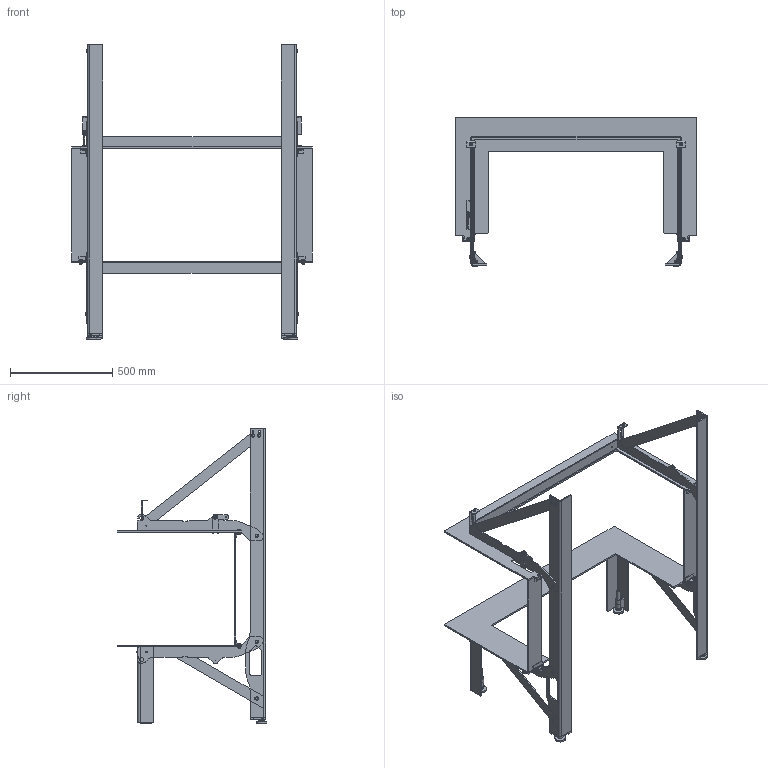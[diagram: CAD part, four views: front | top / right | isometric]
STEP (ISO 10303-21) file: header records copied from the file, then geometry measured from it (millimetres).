
FILE_DESCRIPTION(/* description */ ('','CAx-IF Rec.Pracs.---Representation and Presentation of Product Manufacturing Information (PMI)---3.8---2014-02-18'),/* implementation_level */ '2;1');
FILE_NAME(/* name */ 'C:\ADSK_DM_WS\CAD_3D\03 Geraete\RIII 55x100x46\Zeichnungen\RIII_55x100x46_Einbaurahmen_freistehend_Gen1_2017-01535.stp',/* time_stamp */ '2018-03-07T11:39:57+01:00',/* author */ ('cpi'),/* organization */ (''),/* preprocessor_version */ 'ST-DEVELOPER v16.1',/* originating_system */ 'Autodesk Inventor 2016',/* authorisation */ '');
FILE_SCHEMA (('AP242_MANAGED_MODEL_BASED_3D_ENGINEERING_MIM_LF { 1 0 10303 442 1 1 4 }'));
Length unit declared in the file: millimetre
Products named in the file (40): 2016-03124; 2016-03125; 2016-03126; 2010-03187; Schweissmutter M8; 2016-03122; 2017-01529; 2012-01218; 2016-03143; 2017-01531; 2016-03144; 2016-03120; 2007-00085; 2007-00087; 34-110-055; 120-050; 2012-02310; DIN 7337 - A4,8 x 12 x 6; 2016-03121; 2017-01530; 2015-02925; 2015-02983; 2016-01603; 2015-02928; 2015-02927; 2016-03230; 2016-04189; 2017-01221; 2016-03123; 2017-01222; 2012-01777; 2017-01536; 2018-00007; 2017-01538; 2018-00008; ISO 4032 - M4ISO; ISO 4017 - M4 x 25 - ISO; DIN 125 - A 8.4; ISO 4017 - M8 x 20DIN EN; 2017-01533
Assembly tree (107 placements, depth 4):
  2017-01533
    2016-03122
      2016-03124
      2016-03125  x2
      2016-03126
      2010-03187  x2
      Schweissmutter M8  x2
    2017-01531
      2017-01529
      2012-01218
      2016-03143
    2016-03121
      2016-03144
      2016-03120  x2
      2016-03125  x2
      2016-03126
      34-110-055  x2
        2007-00085
        2007-00087
      120-050  x2
      2012-02310  x2
      Schweissmutter M8  x4
      DIN 7337 - A4,8 x 12 x 6  x8
    2017-01530
      2017-01529
      2012-01218
      2016-03143
    2015-02925
    2015-02983
    2016-01603  x2
    2015-02928
    2015-02927
    2016-03230
    2017-01221
      2016-04189
      Schweissmutter M8  x2
    2017-01222
      2016-03123
      Schweissmutter M8  x2
    2018-00007
      2012-01777
      120-050
      2017-01536
      Schweissmutter M8  x3
    2018-00008
      120-050
      2012-01777
      2017-01538
      Schweissmutter M8  x3
    ISO 4032 - M4ISO
    ISO 4017 - M4 x 25 - ISO
    DIN 125 - A 8.4  x16
    ISO 4017 - M8 x 20DIN EN  x16
Bounding box: 1175 x 731.44 x 1443.5 mm (x, y, z)
Volume: 9966144 mm3; surface area: 3395397.3 mm2
Topology: 99 solids, 99 shells, 1684 faces, 4101 edges, 2679 vertices
Faces by surface type: plane 902, cylinder 555, cone 211, torus 8, bspline 8
Full cylindrical faces by diameter (mm): 3.242 x5, 4 x1, 4.5 x3, 4.8 x8, 5.2 x20, 5.88 x1, 6.2 x1, 8 x32, 8.4 x16, 9 x6, 9.5 x8, 10 x5, 10.21 x2, 10.4 x1, 10.5 x13, 11.63 x16, 12 x2, 13.835 x4, 16 x21, 17 x2, 20 x2, 24 x2, 25 x2, 30 x4
Entity records: 22170 total; most frequent: CARTESIAN_POINT 3939, DIRECTION 3871, ORIENTED_EDGE 3378, EDGE_CURVE 1689, AXIS2_PLACEMENT_3D 1437, VERTEX_POINT 1145, LINE 997, VECTOR 997
